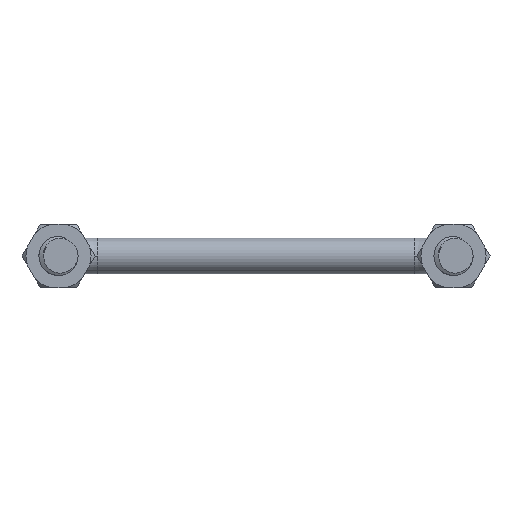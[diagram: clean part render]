
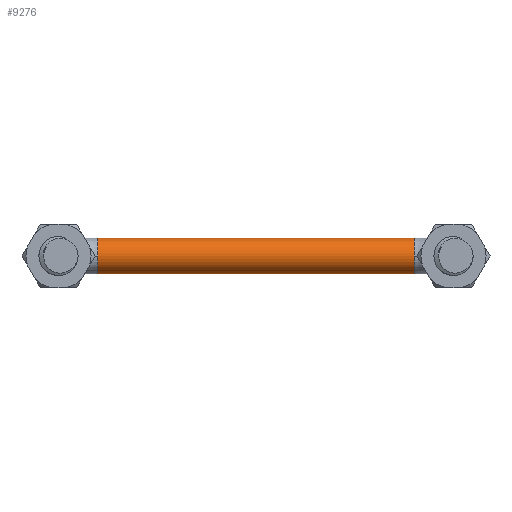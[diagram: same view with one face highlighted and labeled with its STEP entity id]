
A CAD part, front view. The second image highlights one B-rep face of the part: STEP entity #9276.
In plain terms, the highlighted cylindrical face has radius 4.5 mm (diameter 9 mm), a partial arc.
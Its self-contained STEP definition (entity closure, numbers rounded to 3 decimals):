
#9 = DIRECTION ( 'NONE',  ( 1., 0., 0. ) ) ;
#70 = FACE_OUTER_BOUND ( 'NONE', #1961, .T. ) ;
#626 = EDGE_CURVE ( 'NONE', #1952, #8991, #2536, .T. ) ;
#671 = EDGE_CURVE ( 'NONE', #8991, #8046, #8365, .T. ) ;
#699 = AXIS2_PLACEMENT_3D ( 'NONE', #8116, #8930, #3608 ) ;
#1132 = ORIENTED_EDGE ( 'NONE', *, *, #9261, .F. ) ;
#1220 = AXIS2_PLACEMENT_3D ( 'NONE', #6592, #4295, #7444 ) ;
#1438 = CARTESIAN_POINT ( 'NONE',  ( 90., 31.5, 0. ) ) ;
#1562 = DIRECTION ( 'NONE',  ( 1., 0., 0. ) ) ;
#1821 = EDGE_CURVE ( 'NONE', #8046, #9312, #1896, .T. ) ;
#1896 = LINE ( 'NONE', #6815, #5917 ) ;
#1952 = VERTEX_POINT ( 'NONE', #2463 ) ;
#1961 = EDGE_LOOP ( 'NONE', ( #1132, #8022, #3096, #9192, #9548, #5051 ) ) ;
#1964 = VERTEX_POINT ( 'NONE', #3242 ) ;
#2184 = CARTESIAN_POINT ( 'NONE',  ( 10., 31.5, -4.5 ) ) ;
#2203 = DIRECTION ( 'NONE',  ( 0., 0., 1. ) ) ;
#2261 = DIRECTION ( 'NONE',  ( 1., 0., 0. ) ) ;
#2327 = LINE ( 'NONE', #8383, #8182 ) ;
#2463 = CARTESIAN_POINT ( 'NONE',  ( 10., 31.5, 4.5 ) ) ;
#2536 = CIRCLE ( 'NONE', #1220, 4.5 ) ;
#3096 = ORIENTED_EDGE ( 'NONE', *, *, #671, .T. ) ;
#3103 = CARTESIAN_POINT ( 'NONE',  ( 90., 31.5, -4.5 ) ) ;
#3242 = CARTESIAN_POINT ( 'NONE',  ( 90., 27., 0. ) ) ;
#3366 = EDGE_CURVE ( 'NONE', #5905, #1964, #3440, .T. ) ;
#3440 = CIRCLE ( 'NONE', #7023, 4.5 ) ;
#3608 = DIRECTION ( 'NONE',  ( 0., 0., 1. ) ) ;
#4118 = CARTESIAN_POINT ( 'NONE',  ( 90., 31.5, 4.5 ) ) ;
#4295 = DIRECTION ( 'NONE',  ( 1., 0., 0. ) ) ;
#4541 = CARTESIAN_POINT ( 'NONE',  ( 90., 31.5, 0. ) ) ;
#5051 = ORIENTED_EDGE ( 'NONE', *, *, #3366, .F. ) ;
#5117 = AXIS2_PLACEMENT_3D ( 'NONE', #1438, #6755, #2203 ) ;
#5242 = DIRECTION ( 'NONE',  ( 1., 0., 0. ) ) ;
#5302 = DIRECTION ( 'NONE',  ( 0., 0., 1. ) ) ;
#5877 = CYLINDRICAL_SURFACE ( 'NONE', #8292, 4.5 ) ;
#5905 = VERTEX_POINT ( 'NONE', #4118 ) ;
#5917 = VECTOR ( 'NONE', #2261, 1000. ) ;
#6095 = CARTESIAN_POINT ( 'NONE',  ( 10., 31.5, 0. ) ) ;
#6592 = CARTESIAN_POINT ( 'NONE',  ( 10., 31.5, 0. ) ) ;
#6684 = CARTESIAN_POINT ( 'NONE',  ( 10., 27., 0. ) ) ;
#6755 = DIRECTION ( 'NONE',  ( 1., 0., 0. ) ) ;
#6815 = CARTESIAN_POINT ( 'NONE',  ( 10., 31.5, -4.5 ) ) ;
#6844 = EDGE_CURVE ( 'NONE', #1964, #9312, #8775, .T. ) ;
#6880 = DIRECTION ( 'NONE',  ( 0., 0., -1. ) ) ;
#7023 = AXIS2_PLACEMENT_3D ( 'NONE', #4541, #9, #5302 ) ;
#7444 = DIRECTION ( 'NONE',  ( 0., 0., 1. ) ) ;
#8022 = ORIENTED_EDGE ( 'NONE', *, *, #626, .T. ) ;
#8046 = VERTEX_POINT ( 'NONE', #2184 ) ;
#8116 = CARTESIAN_POINT ( 'NONE',  ( 10., 31.5, 0. ) ) ;
#8182 = VECTOR ( 'NONE', #5242, 1000. ) ;
#8292 = AXIS2_PLACEMENT_3D ( 'NONE', #6095, #1562, #6880 ) ;
#8365 = CIRCLE ( 'NONE', #699, 4.5 ) ;
#8383 = CARTESIAN_POINT ( 'NONE',  ( 10., 31.5, 4.5 ) ) ;
#8775 = CIRCLE ( 'NONE', #5117, 4.5 ) ;
#8930 = DIRECTION ( 'NONE',  ( 1., 0., 0. ) ) ;
#8991 = VERTEX_POINT ( 'NONE', #6684 ) ;
#9192 = ORIENTED_EDGE ( 'NONE', *, *, #1821, .T. ) ;
#9261 = EDGE_CURVE ( 'NONE', #1952, #5905, #2327, .T. ) ;
#9276 = ADVANCED_FACE ( 'NONE', ( #70 ), #5877, .T. ) ;
#9312 = VERTEX_POINT ( 'NONE', #3103 ) ;
#9548 = ORIENTED_EDGE ( 'NONE', *, *, #6844, .F. ) ;
